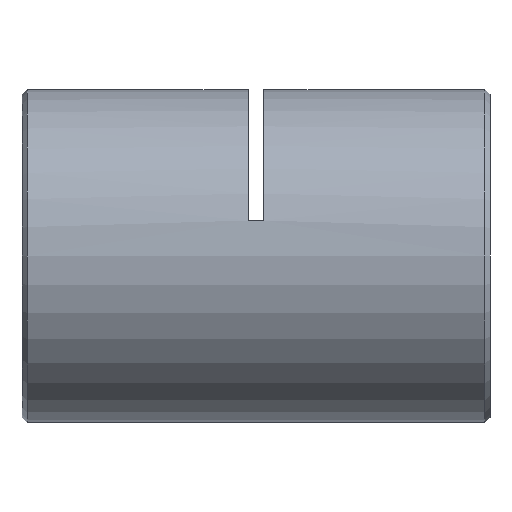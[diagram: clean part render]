
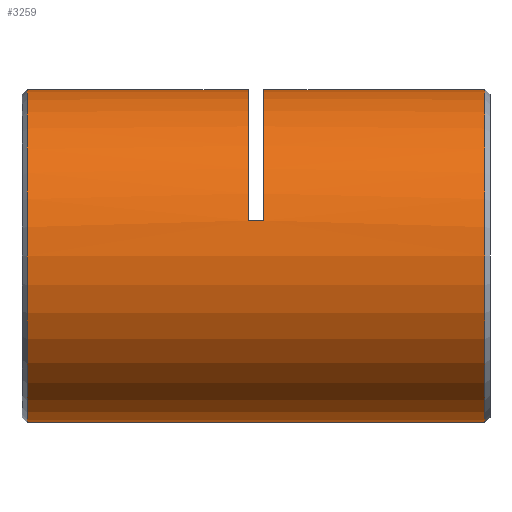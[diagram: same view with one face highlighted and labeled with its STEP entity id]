
A CAD part, left-side view. The second image highlights one B-rep face of the part: STEP entity #3259.
In plain terms, the highlighted cylindrical face has radius 16 mm (diameter 32 mm), a partial arc.
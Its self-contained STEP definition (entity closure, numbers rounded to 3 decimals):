
#8 = LINE ( 'NONE', #5240, #4275 ) ;
#22 = DIRECTION ( 'NONE',  ( 0., 1., 0. ) ) ;
#75 = DIRECTION ( 'NONE',  ( 0., 1., 0. ) ) ;
#145 = EDGE_CURVE ( 'NONE', #1611, #2916, #2859, .T. ) ;
#179 = EDGE_CURVE ( 'NONE', #1611, #1907, #8, .T. ) ;
#298 = LINE ( 'NONE', #728, #5991 ) ;
#313 = CIRCLE ( 'NONE', #4905, 16. ) ;
#329 = CARTESIAN_POINT ( 'NONE',  ( 0., 23.5, 16. ) ) ;
#374 = VERTEX_POINT ( 'NONE', #633 ) ;
#546 = ORIENTED_EDGE ( 'NONE', *, *, #3223, .T. ) ;
#633 = CARTESIAN_POINT ( 'NONE',  ( -15.632, 23.5, 3.413 ) ) ;
#725 = CARTESIAN_POINT ( 'NONE',  ( 0., 0.75, 16. ) ) ;
#728 = CARTESIAN_POINT ( 'NONE',  ( 0., 0., 16. ) ) ;
#761 = ORIENTED_EDGE ( 'NONE', *, *, #145, .T. ) ;
#965 = VERTEX_POINT ( 'NONE', #4650 ) ;
#1019 = CARTESIAN_POINT ( 'NONE',  ( 0., 0.75, -16. ) ) ;
#1059 = CIRCLE ( 'NONE', #3962, 16. ) ;
#1132 = FACE_OUTER_BOUND ( 'NONE', #4028, .T. ) ;
#1200 = CYLINDRICAL_SURFACE ( 'NONE', #4909, 16. ) ;
#1239 = DIRECTION ( 'NONE',  ( 0., 1., 0. ) ) ;
#1468 = VECTOR ( 'NONE', #5927, 1000. ) ;
#1611 = VERTEX_POINT ( 'NONE', #1019 ) ;
#1735 = EDGE_CURVE ( 'NONE', #6158, #374, #4980, .T. ) ;
#1907 = VERTEX_POINT ( 'NONE', #3674 ) ;
#2063 = CARTESIAN_POINT ( 'NONE',  ( 0., 0., 16. ) ) ;
#2108 = EDGE_CURVE ( 'NONE', #2981, #4231, #2937, .T. ) ;
#2111 = DIRECTION ( 'NONE',  ( 0., 0., -1. ) ) ;
#2139 = DIRECTION ( 'NONE',  ( 0., -1., 0. ) ) ;
#2256 = ORIENTED_EDGE ( 'NONE', *, *, #2108, .T. ) ;
#2390 = AXIS2_PLACEMENT_3D ( 'NONE', #4029, #2139, #2111 ) ;
#2855 = DIRECTION ( 'NONE',  ( 0., 0., 1. ) ) ;
#2859 = CIRCLE ( 'NONE', #4089, 16. ) ;
#2886 = CARTESIAN_POINT ( 'NONE',  ( -15.632, 22., 3.413 ) ) ;
#2916 = VERTEX_POINT ( 'NONE', #725 ) ;
#2937 = LINE ( 'NONE', #2063, #1468 ) ;
#2981 = VERTEX_POINT ( 'NONE', #329 ) ;
#3076 = ORIENTED_EDGE ( 'NONE', *, *, #1735, .T. ) ;
#3113 = DIRECTION ( 'NONE',  ( 0., 0., 1. ) ) ;
#3223 = EDGE_CURVE ( 'NONE', #4231, #1907, #5537, .T. ) ;
#3226 = CARTESIAN_POINT ( 'NONE',  ( 0., 44.75, 16. ) ) ;
#3259 = ADVANCED_FACE ( 'NONE', ( #1132 ), #1200, .T. ) ;
#3340 = CARTESIAN_POINT ( 'NONE',  ( 0., 23.5, 0. ) ) ;
#3344 = DIRECTION ( 'NONE',  ( 0., 0., 1. ) ) ;
#3350 = VECTOR ( 'NONE', #75, 1000. ) ;
#3442 = CARTESIAN_POINT ( 'NONE',  ( 0., 0.75, 0. ) ) ;
#3491 = DIRECTION ( 'NONE',  ( 0., 1., 0. ) ) ;
#3674 = CARTESIAN_POINT ( 'NONE',  ( 0., 44.75, -16. ) ) ;
#3800 = EDGE_CURVE ( 'NONE', #374, #2981, #313, .T. ) ;
#3904 = DIRECTION ( 'NONE',  ( 0., 1., 0. ) ) ;
#3962 = AXIS2_PLACEMENT_3D ( 'NONE', #6102, #5580, #4038 ) ;
#4028 = EDGE_LOOP ( 'NONE', ( #5372, #761, #4349, #4365, #3076, #5168, #2256, #546 ) ) ;
#4029 = CARTESIAN_POINT ( 'NONE',  ( 0., 44.75, 0. ) ) ;
#4038 = DIRECTION ( 'NONE',  ( 0., 0., 1. ) ) ;
#4089 = AXIS2_PLACEMENT_3D ( 'NONE', #3442, #22, #3344 ) ;
#4231 = VERTEX_POINT ( 'NONE', #3226 ) ;
#4275 = VECTOR ( 'NONE', #3904, 1000. ) ;
#4344 = CARTESIAN_POINT ( 'NONE',  ( -15.632, 22.75, 3.413 ) ) ;
#4349 = ORIENTED_EDGE ( 'NONE', *, *, #5923, .T. ) ;
#4365 = ORIENTED_EDGE ( 'NONE', *, *, #5868, .F. ) ;
#4603 = CARTESIAN_POINT ( 'NONE',  ( 0., 0., 0. ) ) ;
#4650 = CARTESIAN_POINT ( 'NONE',  ( 0., 22., 16. ) ) ;
#4905 = AXIS2_PLACEMENT_3D ( 'NONE', #3340, #5283, #2855 ) ;
#4909 = AXIS2_PLACEMENT_3D ( 'NONE', #4603, #3491, #3113 ) ;
#4980 = LINE ( 'NONE', #4344, #3350 ) ;
#5168 = ORIENTED_EDGE ( 'NONE', *, *, #3800, .T. ) ;
#5240 = CARTESIAN_POINT ( 'NONE',  ( 0., 0., -16. ) ) ;
#5283 = DIRECTION ( 'NONE',  ( 0., 1., 0. ) ) ;
#5372 = ORIENTED_EDGE ( 'NONE', *, *, #179, .F. ) ;
#5537 = CIRCLE ( 'NONE', #2390, 16. ) ;
#5580 = DIRECTION ( 'NONE',  ( 0., 1., 0. ) ) ;
#5868 = EDGE_CURVE ( 'NONE', #6158, #965, #1059, .T. ) ;
#5923 = EDGE_CURVE ( 'NONE', #2916, #965, #298, .T. ) ;
#5927 = DIRECTION ( 'NONE',  ( 0., 1., 0. ) ) ;
#5991 = VECTOR ( 'NONE', #1239, 1000. ) ;
#6102 = CARTESIAN_POINT ( 'NONE',  ( 0., 22., 0. ) ) ;
#6158 = VERTEX_POINT ( 'NONE', #2886 ) ;
